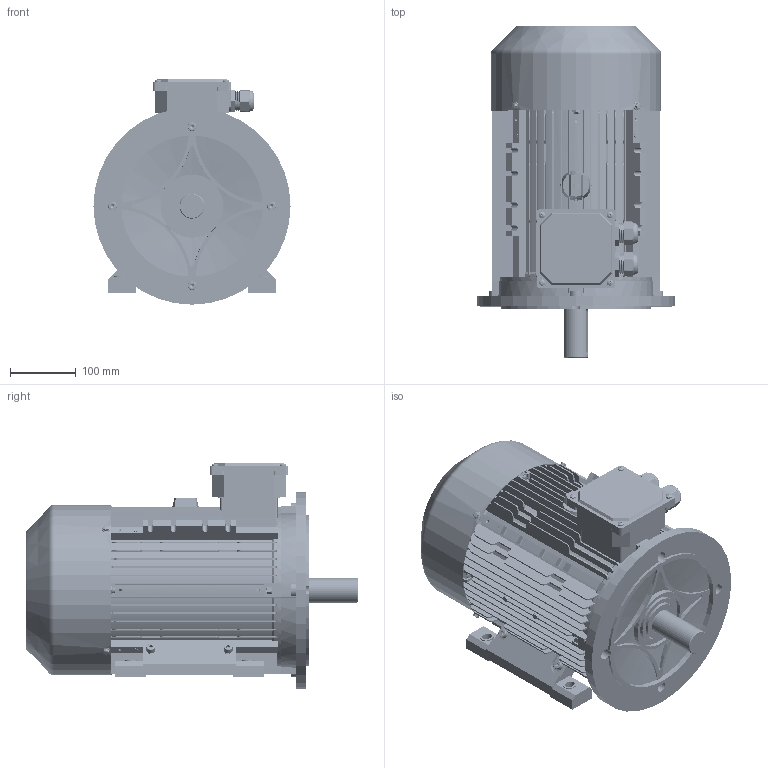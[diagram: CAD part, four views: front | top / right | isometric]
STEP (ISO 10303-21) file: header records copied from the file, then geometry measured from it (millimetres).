
FILE_DESCRIPTION (( 'STEP AP203' ), '1' );
FILE_NAME ('ME3-132M B35 3D.STEP', '2024-07-27T02:10:37', ( 'User' ), ( 'China' ), 'SwSTEP 2.0', 'SolidWorks 2018', '' );
FILE_SCHEMA (( 'CONFIG_CONTROL_DESIGN' ));
Length unit declared in the file: millimetre
Products named in the file (19): 40X58X7蚐猾; spring lock washers--normal type gb_GB_FASTENER_WASHER_SW 8; ME3-132M儂褲; ME3-132B5傷裔; hexagon socket head cap screws gb_GB_FASTENER_SCREWS_HSHCS M8X30-S; ME3-132M菁褐; ME3-132M B35  3D; hexagon socket head cap screws gb_GB_FASTENER_SCREWS_HSHCS M8X40-S; ME3-132 B3傷裔; hex nuts-style normal-grades ab gb_GB_HEXAGON_TYPE10 M8X1-S; deep groove ball bearings gb_Rolling bearings 6308 GB 276-94; ME3-132瑞欶; ME3-132M蛌粣; hex flange bolts-heavy grade b gb_GB_FASTENER_BOLT_HFBB M5X10-S; MS112-132 諉盄碟釱; MS112-132諉盄碟裔; M24 蹟杶; cross recessed pan head screws gb_GB_CROSS_SCREWS_TYPE1 M5X6-6  H type-S; M24 蹟杶簸
Assembly tree (51 placements, depth 2):
  ME3-132M B35  3D
    ME3-132M儂褲
    ME3-132M菁褐  x2
    ME3-132 B3傷裔
    deep groove ball bearings gb_Rolling bearings 6308 GB 276-94  x2
    ME3-132M蛌粣
    MS112-132 諉盄碟釱
    M24 蹟杶  x2
    M24 蹟杶簸  x2
    spring lock washers--normal type gb_GB_FASTENER_WASHER_SW 8  x4
    hexagon socket head cap screws gb_GB_FASTENER_SCREWS_HSHCS M8X30-S  x5
    hexagon socket head cap screws gb_GB_FASTENER_SCREWS_HSHCS M8X40-S  x7
    hex nuts-style normal-grades ab gb_GB_HEXAGON_TYPE10 M8X1-S  x11
    ME3-132瑞欶
    hex flange bolts-heavy grade b gb_GB_FASTENER_BOLT_HFBB M5X10-S  x4
    MS112-132諉盄碟裔
    cross recessed pan head screws gb_GB_CROSS_SCREWS_TYPE1 M5X6-6  H type-S  x4
    40X58X7蚐猾
    ME3-132B5傷裔
Bounding box: 300 x 505.15 x 343 mm (x, y, z)
Volume: 4180599.7 mm3; surface area: 2005892.6 mm2
Topology: 53 solids, 54 shells, 8062 faces, 19780 edges, 11814 vertices
Faces by surface type: cone 2857, plane 2542, cylinder 2317, torus 232, sphere 68, bspline 46
Entity records: 142255 total; most frequent: CARTESIAN_POINT 35807, ORIENTED_EDGE 22268, DIRECTION 20849, EDGE_CURVE 11134, VERTEX_POINT 7136, AXIS2_PLACEMENT_3D 6955, VECTOR 6939, LINE 6939
